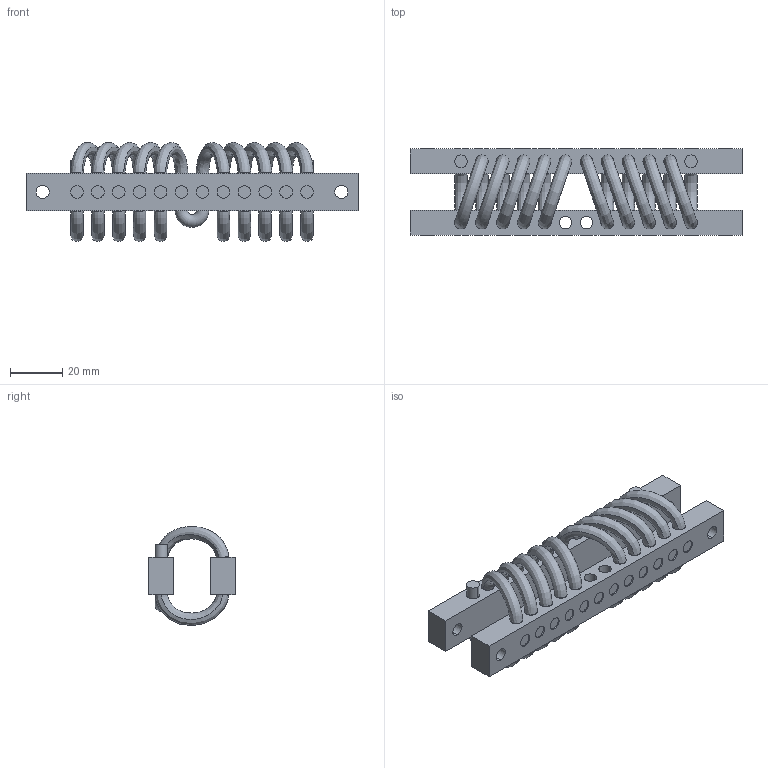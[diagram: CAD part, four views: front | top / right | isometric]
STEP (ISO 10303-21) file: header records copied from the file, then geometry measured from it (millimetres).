
FILE_DESCRIPTION (( 'STEP AP214' ), '1' );
FILE_NAME ('WR6-300-10DM.STEP', '2018-12-07T09:54:07', ( 'user' ), ( 'Microsoft' ), 'SwSTEP 2.0', 'SolidWorks 2016', '' );
FILE_SCHEMA (( 'AUTOMOTIVE_DESIGN' ));
Length unit declared in the file: millimetre
Products named in the file (1): WR6-300-10DM
Bounding box: 127 x 33 x 37.97 mm (x, y, z)
Volume: 45608.4 mm3; surface area: 33623.5 mm2
Topology: 25 solids, 25 shells, 316 faces, 702 edges, 460 vertices
Faces by surface type: cylinder 192, plane 82, bspline 40, torus 2
Entity records: 24290 total; most frequent: CARTESIAN_POINT 17019, ORIENTED_EDGE 1404, DIRECTION 1382, EDGE_CURVE 702, AXIS2_PLACEMENT_3D 583, VERTEX_POINT 460, EDGE_LOOP 396, FACE_OUTER_BOUND 316
